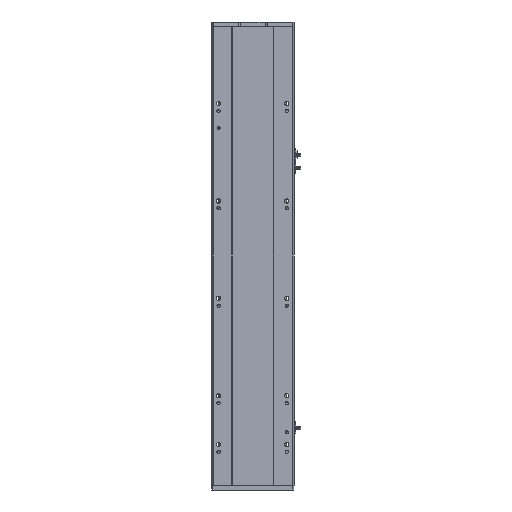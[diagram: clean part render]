
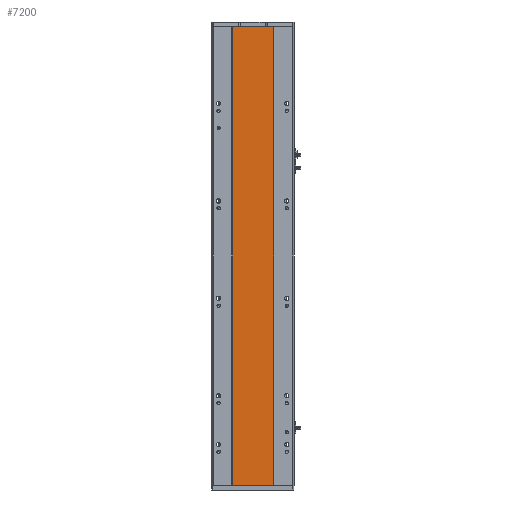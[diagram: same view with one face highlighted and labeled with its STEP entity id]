
A CAD part, front view. The second image highlights one B-rep face of the part: STEP entity #7200.
In plain terms, the highlighted planar face has unit normal (0, -1, 0).
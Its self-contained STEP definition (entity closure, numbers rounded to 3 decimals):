
#571 = VECTOR ( 'NONE', #9094, 1000. ) ;
#774 = CARTESIAN_POINT ( 'NONE',  ( 3357.022, 39.912, 0. ) ) ;
#880 = EDGE_CURVE ( 'NONE', #4879, #4918, #18286, .T. ) ;
#1929 = VECTOR ( 'NONE', #6009, 1000. ) ;
#2495 = EDGE_CURVE ( 'NONE', #14287, #6625, #19848, .T. ) ;
#2862 = LINE ( 'NONE', #9039, #17365 ) ;
#2992 = CARTESIAN_POINT ( 'NONE',  ( 3357.022, 39.912, 941. ) ) ;
#3056 = CARTESIAN_POINT ( 'NONE',  ( 0., 39.912, 0. ) ) ;
#3142 = AXIS2_PLACEMENT_3D ( 'NONE', #11644, #11835, #17828 ) ;
#4879 = VERTEX_POINT ( 'NONE', #15002 ) ;
#4918 = VERTEX_POINT ( 'NONE', #16525 ) ;
#4942 = ORIENTED_EDGE ( 'NONE', *, *, #880, .F. ) ;
#5686 = FACE_OUTER_BOUND ( 'NONE', #13189, .T. ) ;
#6009 = DIRECTION ( 'NONE',  ( 1., 0., 0. ) ) ;
#6148 = CARTESIAN_POINT ( 'NONE',  ( 3441.022, 39.912, 0. ) ) ;
#6625 = VERTEX_POINT ( 'NONE', #6148 ) ;
#7103 = PLANE ( 'NONE',  #3142 ) ;
#7200 = ADVANCED_FACE ( 'NONE', ( #5686 ), #7103, .F. ) ;
#8371 = ORIENTED_EDGE ( 'NONE', *, *, #11109, .F. ) ;
#9039 = CARTESIAN_POINT ( 'NONE',  ( 3441.022, 39.912, 941. ) ) ;
#9094 = DIRECTION ( 'NONE',  ( 1., 0., 0. ) ) ;
#10033 = ORIENTED_EDGE ( 'NONE', *, *, #2495, .T. ) ;
#10669 = LINE ( 'NONE', #2992, #15838 ) ;
#11109 = EDGE_CURVE ( 'NONE', #4918, #6625, #2862, .T. ) ;
#11644 = CARTESIAN_POINT ( 'NONE',  ( 0., 39.912, 941. ) ) ;
#11835 = DIRECTION ( 'NONE',  ( 0., 1., 0. ) ) ;
#12097 = CARTESIAN_POINT ( 'NONE',  ( 0., 39.912, 941. ) ) ;
#13189 = EDGE_LOOP ( 'NONE', ( #10033, #8371, #4942, #17064 ) ) ;
#14287 = VERTEX_POINT ( 'NONE', #774 ) ;
#14886 = EDGE_CURVE ( 'NONE', #4879, #14287, #10669, .T. ) ;
#15002 = CARTESIAN_POINT ( 'NONE',  ( 3357.022, 39.912, 941. ) ) ;
#15311 = DIRECTION ( 'NONE',  ( 0., 0., -1. ) ) ;
#15838 = VECTOR ( 'NONE', #15311, 1000. ) ;
#16525 = CARTESIAN_POINT ( 'NONE',  ( 3441.022, 39.912, 941. ) ) ;
#17064 = ORIENTED_EDGE ( 'NONE', *, *, #14886, .T. ) ;
#17365 = VECTOR ( 'NONE', #19448, 1000. ) ;
#17828 = DIRECTION ( 'NONE',  ( 0., 0., 1. ) ) ;
#18286 = LINE ( 'NONE', #12097, #571 ) ;
#19448 = DIRECTION ( 'NONE',  ( 0., 0., -1. ) ) ;
#19848 = LINE ( 'NONE', #3056, #1929 ) ;
